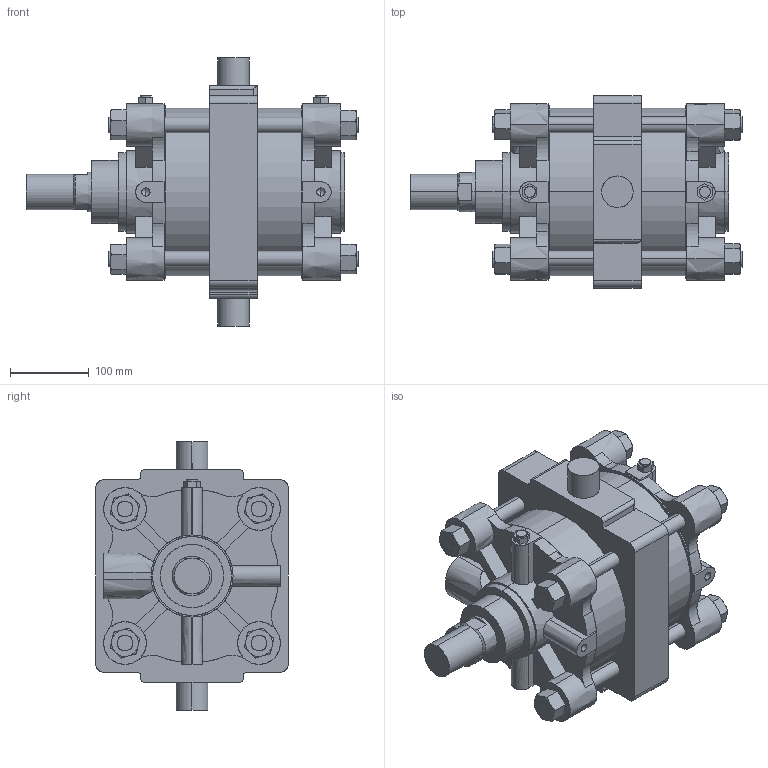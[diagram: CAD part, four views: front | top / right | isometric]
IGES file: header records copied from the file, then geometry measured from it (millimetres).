
Start section: SolidWorks IGES file using analytic representation for surfaces
Global section: file name: C:\Users\Toshiba\Desktop\A##2-200#-100-T.IGS; native system: SolidWorks 2014; preprocessor: SolidWorks 2014; author: Toshiba; date: 160331.150124; units: millimetre
Bounding box: 421 x 244 x 340 mm (x, y, z)
Surface area: 855795.2 mm2 (no closed solid volume)
Topology: 0 solids, 0 shells, 426 faces, 8492 edges, 8480 vertices
Faces by surface type: bspline 262, revolution 164
